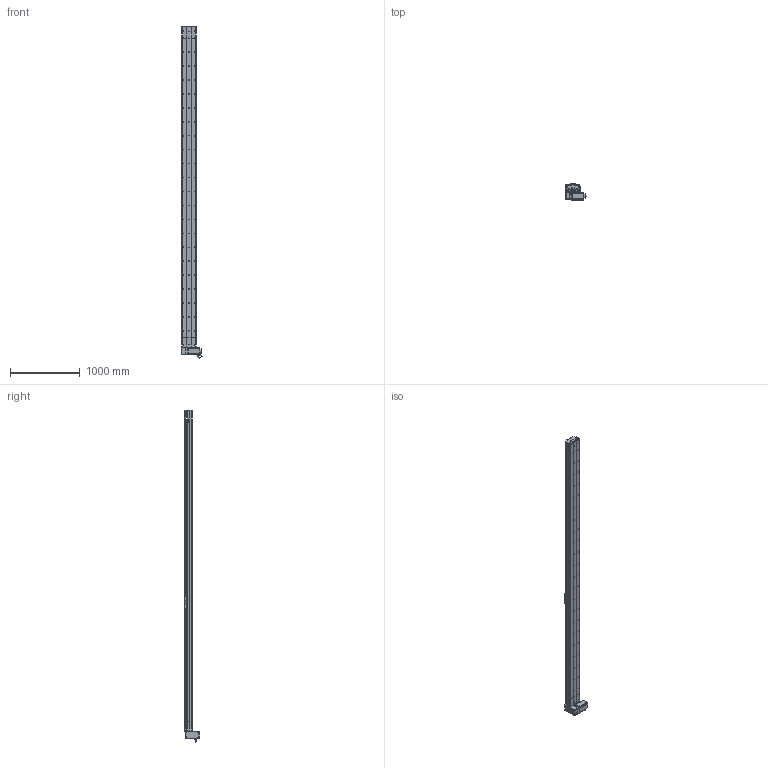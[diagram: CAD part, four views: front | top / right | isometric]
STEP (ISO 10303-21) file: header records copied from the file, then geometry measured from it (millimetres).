
FILE_DESCRIPTION (( 'STEP AP214' ), '1' );
FILE_NAME ('D20 TBH RU S4300.STEP', '2010-07-01T09:23:54', ( 'Conseil Régional Haute-Normandie' ), ( 'Conseil Régional Haute-Normandie' ), 'SwSTEP 2.0', 'SolidWorks 2010', '' );
FILE_SCHEMA (( 'AUTOMOTIVE_DESIGN' ));
Length unit declared in the file: millimetre
Products named in the file (40): D20 TBH RU S4300; Course B L4300_Default; corp D20 S4300_Default; rail tail D20; vis M5 L8 90°_Default; vis M5 L25_Default; vis M5 L12_Default; tete d''axe poulie D20B; poulie tail D20_Default; corpl tail D20 +100_Default; tail D20+100_Default; vis M8 L12_Default; couvercle tail D20_Default; Couroie tail D20_Default; plaque de  bout tail D20_Default; clavette; Conecteur_Default; Conecteur2_Default; Chariot D20B; chariot D20B_Default; rail + couroie  D20 S4300; couvercle D20 S4300_Default; corpl head D20_Default; head RU_Default; guide D20B; poulie head D20_Default; couvercle head D20_Default; rail head D20; cache D20_Default; cache arbre D20_Default; plaque de  bout head D20B RU_Default; Renvoi RU D20_Default; vis M5 L5_Default; couroie_Default; Moteur motionking 110BLDC170A-640x; vis M5 L70_Default; Plaque racord D20LH_Default; codeur 110BLDC170A-630x; corps 110BLDC170A-630x; avant 110BLDC170A-630x
Assembly tree (71 placements, depth 4):
  D20 TBH RU S4300
    tail D20+100_Default
      vis M5 L25_Default  x2
      vis M5 L12_Default  x4
      plaque de  bout tail D20_Default
      Couroie tail D20_Default
      vis M5 L8 90°_Default  x2
      tete d''axe poulie D20B
      corpl tail D20 +100_Default
      couvercle tail D20_Default
      rail tail D20
      poulie tail D20_Default
    chariot D20B_Default
      vis M5 L12_Default  x4
      Chariot D20B
      guide D20B  x2
    Course B L4300_Default
      corp D20 S4300_Default
      couvercle D20 S4300_Default
      rail + couroie  D20 S4300
    head RU_Default
      vis M5 L25_Default  x2
      vis M5 L12_Default  x10
      plaque de  bout head D20B RU_Default
      poulie head D20_Default
      vis M8 L12_Default  x4
      vis M5 L70_Default  x4
      Plaque racord D20LH_Default
      vis M5 L5_Default  x4
      cache D20_Default  x2
      cache arbre D20_Default
      couvercle head D20_Default
      Moteur motionking 110BLDC170A-640x
        avant 110BLDC170A-630x
        Conecteur_Default
        Conecteur2_Default
        corps 110BLDC170A-630x
        clavette
        codeur 110BLDC170A-630x
      rail head D20
      Renvoi RU D20_Default
      couroie_Default
      corpl head D20_Default
Bounding box: 304.2 x 223.2 x 4765 mm (x, y, z)
Volume: 35956747.6 mm3; surface area: 9016048.6 mm2
Topology: 95 solids, 95 shells, 2986 faces, 7818 edges, 5063 vertices
Faces by surface type: plane 1669, cylinder 993, bspline 136, cone 99, torus 89
Entity records: 99435 total; most frequent: CARTESIAN_POINT 32867, ORIENTED_EDGE 12292, DIRECTION 11455, EDGE_CURVE 6146, VERTEX_POINT 4049, AXIS2_PLACEMENT_3D 3833, LINE 3789, VECTOR 3789
